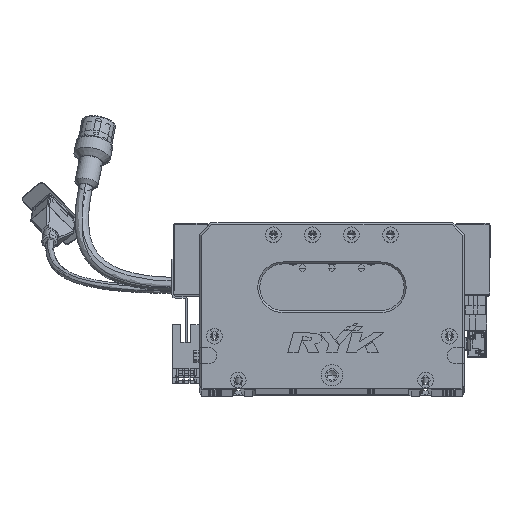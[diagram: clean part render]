
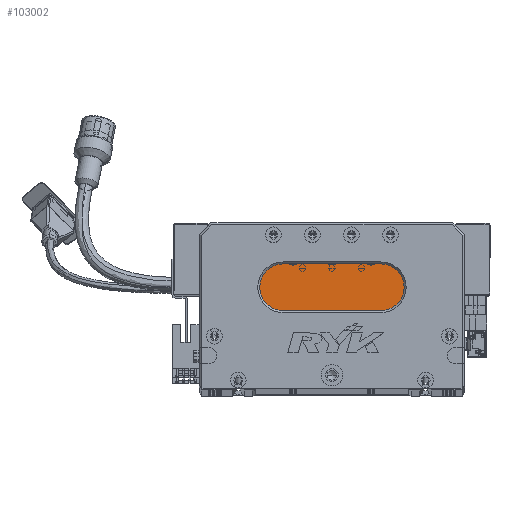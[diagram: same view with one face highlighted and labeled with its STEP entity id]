
A CAD part, top view. The second image highlights one B-rep face of the part: STEP entity #103002.
In plain terms, the highlighted planar face has unit normal (0, 0, 1) as drawn and (0, 0, -1) by its records, which use the part's own axes.
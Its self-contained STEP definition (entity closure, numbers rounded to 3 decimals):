
#1506 = DIRECTION ( 'NONE',  ( -1., 0., 0. ) ) ;
#5135 = LINE ( 'NONE', #27594, #109570 ) ;
#12784 = AXIS2_PLACEMENT_3D ( 'NONE', #13196, #66926, #48877 ) ;
#13196 = CARTESIAN_POINT ( 'NONE',  ( 93., 52., 13. ) ) ;
#20765 = CARTESIAN_POINT ( 'NONE',  ( 93., 52., 13. ) ) ;
#20937 = CARTESIAN_POINT ( 'NONE',  ( 31., 52., 13. ) ) ;
#21532 = DIRECTION ( 'NONE',  ( -1., 0., 0. ) ) ;
#22065 = VERTEX_POINT ( 'NONE', #82804 ) ;
#26213 = DIRECTION ( 'NONE',  ( 0., 0., -1. ) ) ;
#27594 = CARTESIAN_POINT ( 'NONE',  ( 93., 40., 13. ) ) ;
#28058 = EDGE_CURVE ( 'NONE', #40364, #111130, #98652, .T. ) ;
#28512 = DIRECTION ( 'NONE',  ( 1., 0., 0. ) ) ;
#31136 = EDGE_CURVE ( 'NONE', #43056, #112863, #78827, .T. ) ;
#31279 = EDGE_LOOP ( 'NONE', ( #75087, #38343, #113991, #33878, #75771 ) ) ;
#33878 = ORIENTED_EDGE ( 'NONE', *, *, #67647, .T. ) ;
#36294 = EDGE_CURVE ( 'NONE', #22065, #43056, #52034, .T. ) ;
#38343 = ORIENTED_EDGE ( 'NONE', *, *, #49210, .T. ) ;
#40364 = VERTEX_POINT ( 'NONE', #107795 ) ;
#43056 = VERTEX_POINT ( 'NONE', #87020 ) ;
#47737 = PLANE ( 'NONE',  #12784 ) ;
#48877 = DIRECTION ( 'NONE',  ( -1., 0., 0. ) ) ;
#49210 = EDGE_CURVE ( 'NONE', #112863, #40364, #5135, .T. ) ;
#52034 = LINE ( 'NONE', #79627, #93292 ) ;
#55316 = CIRCLE ( 'NONE', #75793, 12. ) ;
#59583 = CARTESIAN_POINT ( 'NONE',  ( 43., 52., 13. ) ) ;
#66926 = DIRECTION ( 'NONE',  ( 0., 0., -1. ) ) ;
#67647 = EDGE_CURVE ( 'NONE', #111130, #22065, #55316, .T. ) ;
#69167 = DIRECTION ( 'NONE',  ( 0., 0., -1. ) ) ;
#69598 = DIRECTION ( 'NONE',  ( -1., 0., 0. ) ) ;
#75087 = ORIENTED_EDGE ( 'NONE', *, *, #31136, .T. ) ;
#75771 = ORIENTED_EDGE ( 'NONE', *, *, #36294, .T. ) ;
#75793 = AXIS2_PLACEMENT_3D ( 'NONE', #59583, #69167, #103033 ) ;
#78827 = CIRCLE ( 'NONE', #86984, 12. ) ;
#79627 = CARTESIAN_POINT ( 'NONE',  ( 93., 64., 13. ) ) ;
#81803 = FACE_OUTER_BOUND ( 'NONE', #31279, .T. ) ;
#82804 = CARTESIAN_POINT ( 'NONE',  ( 43., 64., 13. ) ) ;
#86984 = AXIS2_PLACEMENT_3D ( 'NONE', #20765, #109874, #21532 ) ;
#87020 = CARTESIAN_POINT ( 'NONE',  ( 93., 64., 13. ) ) ;
#91224 = AXIS2_PLACEMENT_3D ( 'NONE', #105740, #26213, #69598 ) ;
#93292 = VECTOR ( 'NONE', #28512, 1000. ) ;
#98652 = CIRCLE ( 'NONE', #91224, 12. ) ;
#99502 = CARTESIAN_POINT ( 'NONE',  ( 93., 40., 13. ) ) ;
#103002 = ADVANCED_FACE ( 'NONE', ( #81803 ), #47737, .T. ) ;
#103033 = DIRECTION ( 'NONE',  ( -1., 0., 0. ) ) ;
#105740 = CARTESIAN_POINT ( 'NONE',  ( 43., 52., 13. ) ) ;
#107795 = CARTESIAN_POINT ( 'NONE',  ( 43., 40., 13. ) ) ;
#109570 = VECTOR ( 'NONE', #1506, 1000. ) ;
#109874 = DIRECTION ( 'NONE',  ( 0., 0., -1. ) ) ;
#111130 = VERTEX_POINT ( 'NONE', #20937 ) ;
#112863 = VERTEX_POINT ( 'NONE', #99502 ) ;
#113991 = ORIENTED_EDGE ( 'NONE', *, *, #28058, .T. ) ;
